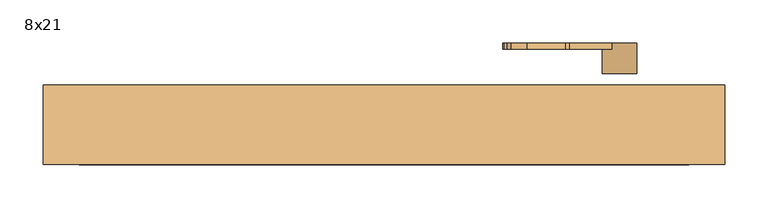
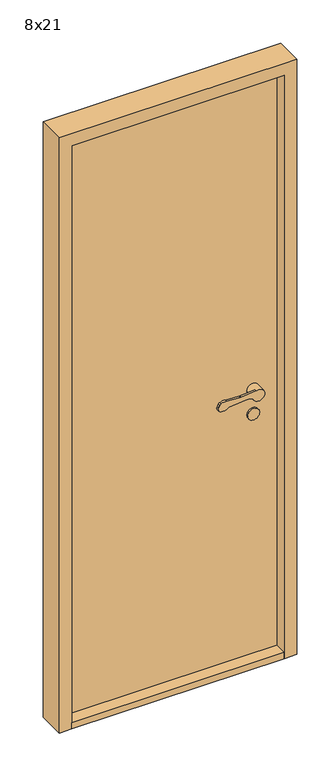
"""IFC4 building model written with IfcOpenShell, lengths in millimetres: door geometry, Innerdør Slett (Diplomat) : 8x21."""

import ifcopenshell
import ifcopenshell.guid

model = None  # the IFC model being written
_history = None  # IfcOwnerHistory: only IFC2X3 demands one
_inside = {}  # id of a spatial element -> (the spatial element, [elements in it])
_under = {}  # id of a project, library or spatial element -> (it, [spatial elements below it])
_declared = {}  # id of a project -> (the project, [libraries it declares])
_typed = {}  # id of a type object -> (the type object, [elements of that type])
_made_of = {}  # id of a material, layer set ... -> (it, [elements and type objects made of it])


def new_model(schema):
    """Start an empty IFC model of exactly this schema.

    Asked for "IFC4X3", IfcOpenShell would pick the latest addendum, in which some entities
    have other attributes; the version numbers below select the first issue.
    IFC2X3 requires an IfcOwnerHistory on every rooted entity: one is made here for all.
    """
    global model, _history
    if schema == "IFC4X3":
        model = ifcopenshell.file(schema_version=(4, 3, 0, 0))
    else:
        model = ifcopenshell.file(schema=schema)
    _inside.clear()
    _under.clear()
    _declared.clear()
    _typed.clear()
    _made_of.clear()
    _history = None
    if model.schema == "IFC2X3":
        org = make("IfcOrganization", Name="unknown")
        user = make(
            "IfcPersonAndOrganization",
            ThePerson=make("IfcPerson", FamilyName="unknown"),
            TheOrganization=org,
        )
        app = make(
            "IfcApplication",
            ApplicationDeveloper=org,
            Version="unknown",
            ApplicationFullName="unknown",
            ApplicationIdentifier="unknown",
        )
        _history = make(
            "IfcOwnerHistory",
            OwningUser=user,
            OwningApplication=app,
            ChangeAction="ADDED",
            CreationDate=0,
        )
    return model


def make(cls, **values):
    """One entity of the class cls with the attributes given. An attribute that is None is left unset."""
    return model.create_entity(
        cls, **{name: value for name, value in values.items() if value is not None}
    )


def rooted(cls, **values):
    """An entity with a GlobalId (a new one), such as an element, a storey or a relation."""
    return make(cls, GlobalId=ifcopenshell.guid.new(), OwnerHistory=_history, **values)


def si_unit(unit_type, name, prefix=None):
    """IfcSIUnit, for example si_unit("LENGTHUNIT", "METRE", prefix="MILLI")."""
    return make("IfcSIUnit", UnitType=unit_type, Prefix=prefix, Name=name)


def assignment(units):
    """IfcUnitAssignment: the units of a project."""
    return None if units is None else make("IfcUnitAssignment", Units=units)


def point(xyz):
    """IfcCartesianPoint."""
    return None if xyz is None else make("IfcCartesianPoint", Coordinates=xyz)


def direction(xyz):
    """IfcDirection."""
    return None if xyz is None else make("IfcDirection", DirectionRatios=xyz)


def frame(location, z_axis=None, x_axis=None):
    """IfcAxis2Placement3D, a coordinate frame: its origin and axes. An axis left out is left unset."""
    return make(
        "IfcAxis2Placement3D",
        Location=point(location),
        Axis=direction(z_axis),
        RefDirection=direction(x_axis),
    )


def frame_2d(location, x_axis=None):
    """IfcAxis2Placement2D, a coordinate frame in the plane: its origin and x axis."""
    return make(
        "IfcAxis2Placement2D", Location=point(location), RefDirection=direction(x_axis)
    )


def origin():
    """The frame at (0, 0, 0) with its axes left unset."""
    return frame((0.0, 0.0, 0.0))


def origin_with_axes():
    """The frame at (0, 0, 0) with the z axis (0, 0, 1) and the x axis (1, 0, 0) written out."""
    return frame((0.0, 0.0, 0.0), z_axis=(0.0, 0.0, 1.0), x_axis=(1.0, 0.0, 0.0))


def place(relative_to, where):
    """IfcLocalPlacement: puts the frame where relative to a parent placement (None: the world)."""
    return make(
        "IfcLocalPlacement", PlacementRelTo=relative_to, RelativePlacement=where
    )


def context(
    kind, dimensions, precision=None, world=None, true_north=None, identifier=None
):
    """IfcGeometricRepresentationContext, for example the 3D "Model" context."""
    return make(
        "IfcGeometricRepresentationContext",
        ContextIdentifier=identifier,
        ContextType=kind,
        CoordinateSpaceDimension=dimensions,
        Precision=precision,
        WorldCoordinateSystem=world,
        TrueNorth=true_north,
    )


def project(units=None, contexts=None):
    """IfcProject with its units and contexts."""
    return rooted(
        "IfcProject",
        Name="project",
        RepresentationContexts=contexts,
        UnitsInContext=assignment(units),
    )


def spatial(cls, under=None, at=None, **own):
    """A site, building, storey or space (cls), placed at a placement, below another one or the project."""
    s = rooted(cls, ObjectPlacement=at, **own)
    if under is not None:
        _under.setdefault(under.id(), (under, []))[1].append(s)
    return s


def polyline(points):
    """IfcPolyline through the points."""
    return make("IfcPolyline", Points=[point(p) for p in points])


def circle_curve(where, radius):
    """IfcCircle in the frame where."""
    return make("IfcCircle", Position=where, Radius=radius)


def trimmed(basis, trim1, trim2, sense, master):
    """IfcTrimmedCurve: the piece of a basis curve between two trims."""
    return make(
        "IfcTrimmedCurve",
        BasisCurve=basis,
        Trim1=trim1,
        Trim2=trim2,
        SenseAgreement=sense,
        MasterRepresentation=master,
    )


def segment(curve, same_sense, transition):
    """IfcCompositeCurveSegment."""
    return make(
        "IfcCompositeCurveSegment",
        Transition=transition,
        SameSense=same_sense,
        ParentCurve=curve,
    )


def composite_curve(segments, self_intersect=None):
    """IfcCompositeCurve: segments joined end to end."""
    return make("IfcCompositeCurve", Segments=segments, SelfIntersect=self_intersect)


def outline(outer, holes=None, kind="AREA"):
    """IfcArbitraryClosedProfileDef: a profile drawn as a closed curve; with holes, ...WithVoids."""
    if holes is None:
        return make("IfcArbitraryClosedProfileDef", ProfileType=kind, OuterCurve=outer)
    return make(
        "IfcArbitraryProfileDefWithVoids",
        ProfileType=kind,
        OuterCurve=outer,
        InnerCurves=holes,
    )


def extrude(swept, where, along, depth):
    """IfcExtrudedAreaSolid: the profile swept, set in the frame where, extruded along a direction by depth."""
    return make(
        "IfcExtrudedAreaSolid",
        SweptArea=swept,
        Position=where,
        ExtrudedDirection=direction(along),
        Depth=depth,
    )


def shape(context_of_items, identifier, shape_type, items):
    """IfcShapeRepresentation: the items that make up one representation, for example the "Body"."""
    return make(
        "IfcShapeRepresentation",
        ContextOfItems=context_of_items,
        RepresentationIdentifier=identifier,
        RepresentationType=shape_type,
        Items=items,
    )


def source(mapping_origin, context_of_items, identifier, shape_type, items):
    """IfcRepresentationMap: a shape defined once, which mapped items show again and again."""
    return make(
        "IfcRepresentationMap",
        MappingOrigin=mapping_origin,
        MappedRepresentation=shape(context_of_items, identifier, shape_type, items),
    )


def transform(
    local_origin,
    x_axis=None,
    y_axis=None,
    z_axis=None,
    scale=None,
    scale2=None,
    scale3=None,
    uniform=True,
):
    """IfcCartesianTransformationOperator3D, or its non-uniform kind. x_axis, y_axis, z_axis: its Axis1, 2, 3."""
    if uniform:
        return make(
            "IfcCartesianTransformationOperator3D",
            Axis1=direction(x_axis),
            Axis2=direction(y_axis),
            LocalOrigin=point(local_origin),
            Scale=scale,
            Axis3=direction(z_axis),
        )
    return make(
        "IfcCartesianTransformationOperator3DnonUniform",
        Axis1=direction(x_axis),
        Axis2=direction(y_axis),
        LocalOrigin=point(local_origin),
        Scale=scale,
        Axis3=direction(z_axis),
        Scale2=scale2,
        Scale3=scale3,
    )


def mapped(mapping_source, mapping_target):
    """IfcMappedItem: shows the shape of a source again, moved by a transform."""
    return make(
        "IfcMappedItem", MappingSource=mapping_source, MappingTarget=mapping_target
    )


def made_of(thing, what):
    """Note that an element or type object is made of a material, layer set ...; save() writes the relation."""
    if what is not None:
        _made_of.setdefault(what.id(), (what, []))[1].append(thing)
    return thing


def element(
    cls,
    number,
    at=None,
    inside=None,
    cuts=None,
    type_object=None,
    material=None,
    context=None,
    identifier="Body",
    shape_type=None,
    held_by="IfcProductDefinitionShape",
    body=None,
    shapes=None,
    **own,
):
    """One element of the class cls, such as IfcWall. Its Tag is "e" and its number.

    at: its placement. inside: the storey or other place that contains it. cuts: it is an
    opening in that element (IfcRelVoidsElement). A single representation is given by context,
    identifier, shape_type and body (its items); several are given by shapes. held_by: the class
    of the entity that holds the representations. save() writes the other relations.
    """
    e = rooted(cls, Tag="e%d" % number, ObjectPlacement=at, **own)
    if body is not None:
        shapes = [shape(context, identifier, shape_type, body)]
    if shapes is not None:
        e.Representation = make(held_by, Representations=shapes)
    if inside is not None:
        _inside.setdefault(inside.id(), (inside, []))[1].append(e)
    if cuts is not None:
        rooted(
            "IfcRelVoidsElement", RelatingBuildingElement=cuts, RelatedOpeningElement=e
        )
    if type_object is not None:
        _typed.setdefault(type_object.id(), (type_object, []))[1].append(e)
    return made_of(e, material)


def aggregate(whole, parts):
    """IfcRelAggregates: a whole, such as a stair, and the parts it consists of."""
    return rooted("IfcRelAggregates", RelatingObject=whole, RelatedObjects=parts)


def save(model, path):
    """Write the relations noted so far, then the file.

    IfcRelAggregates (storeys below a building ...), IfcRelContainedInSpatialStructure (elements
    in a storey), IfcRelDefinesByType, IfcRelAssociatesMaterial and IfcRelDeclares: one each for
    every whole, place, type object, material and project.
    """
    for whole, parts in _under.values():
        aggregate(whole, parts)
    for where, things in _inside.values():
        rooted(
            "IfcRelContainedInSpatialStructure",
            RelatedElements=things,
            RelatingStructure=where,
        )
    for kind, things in _typed.values():
        rooted("IfcRelDefinesByType", RelatedObjects=things, RelatingType=kind)
    for what, things in _made_of.values():
        rooted("IfcRelAssociatesMaterial", RelatedObjects=things, RelatingMaterial=what)
    for by, libraries in _declared.values():
        rooted("IfcRelDeclares", RelatingContext=by, RelatedDefinitions=libraries)
    model.write(path)


def plane_surface(at):
    """IfcPlane: the flat surface through the origin of the frame at, square to its z axis."""
    return make("IfcPlane", Position=at)


def cylinder_surface(at, radius):
    """IfcCylindricalSurface: all points at the distance radius from the z axis of the frame at."""
    return make("IfcCylindricalSurface", Position=at, Radius=radius)


def revolved_surface(curve, axis_point, axis_direction):
    """IfcSurfaceOfRevolution: the curve turned about the line through axis_point along axis_direction."""
    return make(
        "IfcSurfaceOfRevolution",
        SweptCurve=make("IfcArbitraryOpenProfileDef", ProfileType="CURVE", Curve=curve),
        AxisPosition=make("IfcAxis1Placement", Location=point(axis_point), Axis=direction(axis_direction)),
    )


def advanced_brep(points, edges, surfaces, faces):
    """IfcAdvancedBrep: a solid bounded by faces that lie on surfaces and meet in shared edges.

    An edge is (start, end): straight between two places in points (the first is 0);
    or (start, end, curve); or (start, end, curve, False) where it runs against its curve.
    A face is (place in surfaces, loops), or (place, loops, False) where it looks against
    its surface's normal. A loop lists edges by number (the first is 1), with a minus sign
    where the edge is run from its end to its start. The first loop is the outer one.
    """
    corners = [point(p) for p in points]
    vertices = [make("IfcVertexPoint", VertexGeometry=c) for c in corners]
    made = []
    for start, end, *more in edges:
        made.append(
            make(
                "IfcEdgeCurve",
                EdgeStart=vertices[start],
                EdgeEnd=vertices[end],
                EdgeGeometry=more[0] if more else make("IfcPolyline", Points=[corners[start], corners[end]]),
                SameSense=more[1] if len(more) > 1 else True,
            )
        )
    hull = []
    for where, loops, *sense in faces:
        bounds = []
        for j, loop in enumerate(loops):
            ring = [make("IfcOrientedEdge", EdgeElement=made[abs(k) - 1], Orientation=k > 0) for k in loop]
            bounds.append(
                make(
                    "IfcFaceOuterBound" if j == 0 else "IfcFaceBound",
                    Bound=make("IfcEdgeLoop", EdgeList=ring),
                    Orientation=True,
                )
            )
        hull.append(make("IfcAdvancedFace", Bounds=bounds, FaceSurface=surfaces[where], SameSense=sense[0] if sense else True))
    return make("IfcAdvancedBrep", Outer=make("IfcClosedShell", CfsFaces=hull))


def door_8x21_53164427(model_context):
    return source(origin(), model_context, "Body", "SolidModel", [
        advanced_brep(
        [(293.9611305, -34.0, 949.1175955), (308.3841161, -34.0, 942.6204086), (346.379633, -34.0, 951.3474568), (317.2687793, -34.0, 969.1517356), (268.6891233, -34.0, 964.26032), (263.6202158, -34.0, 964.1804415), (218.8963175, -34.0, 967.2639242), (200.3175669, -34.0, 964.8810513), (195.505009, -34.0, 959.9624074), (191.8691983, -34.0, 951.8913379), (196.721536, -34.0, 938.7393398), (226.0476109, -34.0, 943.6260011), (288.8520664, -34.0, 949.9496913), (268.6891233, -26.8915284, 964.26032), (317.2687793, -26.8915284, 969.1517356), (306.379633, -26.8915284, 951.3474568), (308.3841161, -26.8915284, 942.6204086), (293.9611305, -26.8915284, 949.1175955), (288.8520664, -26.8915284, 949.9496913), (226.0476109, -26.8915284, 943.6260011), (196.721536, -26.8915284, 938.7393398), (191.8691983, -26.8915284, 951.8913379), (195.505009, -26.8915284, 959.9624074), (200.3175669, -26.8915284, 964.8810513), (218.8963175, -26.8915284, 967.2639242), (263.6202158, -26.8915284, 964.1804415), (346.379633, 1.0, 951.3474568), (306.379633, 1.0, 951.3474568)],
        [
            (0, 1),
            (1, 2, circle_curve(frame((326.379633, -34.0, 951.3474568), z_axis=(0.0, -1.0, 0.0), x_axis=(-1.0, 0.0, 0.0)), 20.0)),
            (2, 3, circle_curve(frame((326.379633, -34.0, 951.3474568), z_axis=(0.0, -1.0, 0.0), x_axis=(-1.0, 0.0, 0.0)), 20.0)),
            (3, 4),
            (4, 5, circle_curve(frame((265.683663, -34.0, 994.1093938), z_axis=(0.0, 1.0, 0.0), x_axis=(-0.9949691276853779, 0.0, -0.10018200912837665)), 30.0)),
            (5, 6),
            (6, 7, circle_curve(frame((213.2326797, -34.0, 937.8033877), z_axis=(0.0, -1.0, 0.0), x_axis=(-0.9949691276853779, 0.0, -0.10018200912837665)), 30.0)),
            (7, 8, circle_curve(frame((204.6226045, -34.0, 955.8551634), z_axis=(0.0, -1.0, 0.0), x_axis=(-0.9949691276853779, 0.0, -0.10018200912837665)), 10.0)),
            (8, 9),
            (9, 10, circle_curve(frame((200.9867937, -34.0, 947.7840939), z_axis=(0.0, -1.0, 0.0), x_axis=(-0.9949691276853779, 0.0, -0.10018200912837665)), 10.0)),
            (10, 11, circle_curve(frame((207.8569644, -34.0, 962.352734), z_axis=(0.0, -1.0, 0.0), x_axis=(-0.9949691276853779, 0.0, -0.10018200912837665)), 26.1072815)),
            (11, 12),
            (12, 0, circle_curve(frame((289.8538865, -34.0, 940.0), z_axis=(0.0, 1.0, 0.0), x_axis=(-0.9949691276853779, 0.0, -0.10018200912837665)), 10.0)),
            (13, 14),
            (14, 15, circle_curve(frame((326.379633, -26.8915284, 951.3474568), z_axis=(0.0, -1.0, 0.0), x_axis=(-1.0, 0.0, 0.0)), 20.0)),
            (15, 16, circle_curve(frame((326.379633, -26.8915284, 951.3474568), z_axis=(0.0, -1.0, 0.0), x_axis=(-1.0, 0.0, 0.0)), 20.0)),
            (16, 17),
            (17, 18, circle_curve(frame((289.8538865, -26.8915284, 940.0), z_axis=(0.0, -1.0, 0.0), x_axis=(-0.9949691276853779, 0.0, -0.10018200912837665)), 10.0)),
            (18, 19),
            (19, 20, circle_curve(frame((207.8569644, -26.8915284, 962.352734), z_axis=(0.0, 1.0, 0.0), x_axis=(-0.9949691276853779, 0.0, -0.10018200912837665)), 26.1072815)),
            (20, 21, circle_curve(frame((200.9867937, -26.8915284, 947.7840939), z_axis=(0.0, 1.0, 0.0), x_axis=(-0.9949691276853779, 0.0, -0.10018200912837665)), 10.0)),
            (21, 22),
            (22, 23, circle_curve(frame((204.6226045, -26.8915284, 955.8551634), z_axis=(0.0, 1.0, 0.0), x_axis=(-0.9949691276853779, 0.0, -0.10018200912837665)), 10.0)),
            (23, 24, circle_curve(frame((213.2326797, -26.8915284, 937.8033877), z_axis=(0.0, 1.0, 0.0), x_axis=(-0.9949691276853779, 0.0, -0.10018200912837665)), 30.0)),
            (24, 25),
            (25, 13, circle_curve(frame((265.683663, -26.8915284, 994.1093938), z_axis=(0.0, -1.0, 0.0), x_axis=(-0.9949691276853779, 0.0, -0.10018200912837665)), 30.0)),
            (3, 14),
            (13, 4),
            (16, 1),
            (0, 17),
            (12, 18),
            (11, 19),
            (10, 20),
            (9, 21),
            (8, 22),
            (7, 23),
            (6, 24),
            (5, 25),
            (26, 27, circle_curve(frame((326.379633, 1.0, 951.3474568), z_axis=(0.0, 1.0, 0.0), x_axis=(-1.0, 0.0, 0.0)), 20.0)),
            (27, 26, circle_curve(frame((326.379633, 1.0, 951.3474568), z_axis=(0.0, 1.0, 0.0), x_axis=(-1.0, 0.0, 0.0)), 20.0)),
            (26, 2),
            (15, 27),
        ],
        [
            plane_surface(frame((317.6960588, -34.0, 969.1947577), z_axis=(0.0, -1.0000000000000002, 0.0), x_axis=(0.9949691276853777, 0.0, 0.10018200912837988))),
            plane_surface(frame((317.6960588, -26.8915284, 969.1947577), z_axis=(0.0, 1.0000000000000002, 0.0), x_axis=(-0.9949691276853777, 0.0, -0.10018200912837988))),
            plane_surface(frame((268.6891233, -34.0, 964.26032), z_axis=(-0.10018200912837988, 0.0, 0.9949691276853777), x_axis=(0.0, 1.0, 0.0))),
            plane_surface(frame((326.9687366, -34.0, 934.2485115), z_axis=(-0.41072439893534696, 0.0, -0.91175954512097), x_axis=(0.0, 1.0, 0.0))),
            revolved_surface(polyline([(279.9041952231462, -26.8915284, 938.9981799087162), (279.9041952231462, -34.0, 938.9981799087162)]), (289.8538865, -26.8915284, 940.0), (0.0, 1.0, 0.0)),
            plane_surface(frame((288.8520664, -34.0, 949.9496913), z_axis=(0.10018200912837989, 0.0, -0.9949691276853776), x_axis=(0.0, 1.0, 0.0))),
            cylinder_surface(frame((207.8569644, -26.8915284, 962.352734), z_axis=(0.0, -1.0, 0.0), x_axis=(-0.9949691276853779, 0.0, -0.10018200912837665)), 26.1072815),
            cylinder_surface(frame((200.9867937, -26.8915284, 947.7840939), z_axis=(0.0, -1.0, 0.0), x_axis=(-0.9949691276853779, 0.0, -0.10018200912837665)), 10.0),
            plane_surface(frame((191.8691983, -34.0, 951.8913379), z_axis=(-0.9117595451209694, 0.0, 0.41072439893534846), x_axis=(0.0, 1.0, 0.0))),
            cylinder_surface(frame((204.6226045, -26.8915284, 955.8551634), z_axis=(0.0, -1.0, 0.0), x_axis=(-0.9949691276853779, 0.0, -0.10018200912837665)), 10.0),
            cylinder_surface(frame((213.2326797, -26.8915284, 937.8033877), z_axis=(0.0, -1.0, 0.0), x_axis=(-0.9949691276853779, 0.0, -0.10018200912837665)), 30.0),
            plane_surface(frame((218.8963175, -34.0, 967.2639242), z_axis=(0.06878157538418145, 0.0, 0.9976317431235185), x_axis=(0.0, 1.0, 0.0))),
            revolved_surface(polyline([(235.8345891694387, -26.8915284, 991.1039335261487), (235.8345891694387, -34.0, 991.1039335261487)]), (265.683663, -26.8915284, 994.1093938), (0.0, 1.0, 0.0)),
            plane_surface(frame((306.379633, 1.0, 951.3474568), z_axis=(0.0, 1.0, 0.0), x_axis=(0.0, 0.0, -1.0))),
            cylinder_surface(frame((326.379633, 1.0, 951.3474568), z_axis=(0.0, -1.0, 0.0), x_axis=(-1.0, 0.0, 0.0)), 20.0),
        ],
        [
            (0, [[1, 2, 3, 4, 5, 6, 7, 8, 9, 10, 11, 12, 13]]),
            (1, [[14, 15, 16, 17, 18, 19, 20, 21, 22, 23, 24, 25, 26]]),
            (2, [[-4, 27, -14, 28]]),
            (3, [[-17, 29, -1, 30]]),
            (4, [[31, -18, -30, -13]]),
            (5, [[32, -19, -31, -12]]),
            (6, [[33, -20, -32, -11]]),
            (7, [[34, -21, -33, -10]]),
            (8, [[35, -22, -34, -9]]),
            (9, [[36, -23, -35, -8]]),
            (10, [[37, -24, -36, -7]]),
            (11, [[38, -25, -37, -6]]),
            (12, [[-28, -26, -38, -5]]),
            (13, [[39, 40]]),
            (14, [[41, -2, -29, -16, 42, -39]]),
            (14, [[-42, -15, -27, -3, -41, -40]]),
        ],
    ),
        extrude(outline(composite_curve([segment(trimmed(circle_curve(frame_2d((866.3474568, 326.379633)), 20.0), [point((866.3474568, 346.379633))], [point((866.3474568, 306.379633))], False, "CARTESIAN"), True, "CONTINUOUS"), segment(trimmed(circle_curve(frame_2d((866.3474568, 326.379633)), 20.0), [point((866.3474568, 306.379633))], [point((866.3474568, 346.379633))], False, "CARTESIAN"), True, "CONTINUOUS")], self_intersect=False)), frame((0.0, -4.0, 0.0), z_axis=(0.0, 1.0, 0.0), x_axis=(0.0, 0.0, 1.0)), (0.0, 0.0, 1.0), 5.0),
        advanced_brep(
        [(293.9611305, 100.0, 949.1175955), (288.8520664, 100.0, 949.9496913), (226.0476109, 100.0, 943.6260011), (196.721536, 100.0, 938.7393398), (191.8691983, 100.0, 951.8913379), (195.505009, 100.0, 959.9624074), (200.3175669, 100.0, 964.8810513), (218.8963175, 100.0, 967.2639242), (263.6202158, 100.0, 964.1804415), (268.6891233, 100.0, 964.26032), (317.2687793, 100.0, 969.1517356), (346.379633, 100.0, 951.3474568), (308.3841161, 100.0, 942.6204086), (268.6891233, 92.8915284, 964.26032), (263.6202158, 92.8915284, 964.1804415), (218.8963175, 92.8915284, 967.2639242), (200.3175669, 92.8915284, 964.8810513), (195.505009, 92.8915284, 959.9624074), (191.8691983, 92.8915284, 951.8913379), (196.721536, 92.8915284, 938.7393398), (226.0476109, 92.8915284, 943.6260011), (288.8520664, 92.8915284, 949.9496913), (293.9611305, 92.8915284, 949.1175955), (308.3841161, 92.8915284, 942.6204086), (306.379633, 92.8915284, 951.3474568), (317.2687793, 92.8915284, 969.1517356), (346.379633, 65.0, 951.3474568), (306.379633, 65.0, 951.3474568)],
        [
            (0, 1, circle_curve(frame((289.8538865, 100.0, 940.0), z_axis=(0.0, -1.0, 0.0), x_axis=(-0.9949691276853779, 0.0, -0.10018200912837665)), 10.0)),
            (1, 2),
            (2, 3, circle_curve(frame((207.8569644, 100.0, 962.352734), z_axis=(0.0, 1.0, 0.0), x_axis=(-0.9949691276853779, 0.0, -0.10018200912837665)), 26.1072815)),
            (3, 4, circle_curve(frame((200.9867937, 100.0, 947.7840939), z_axis=(0.0, 1.0, 0.0), x_axis=(-0.9949691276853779, 0.0, -0.10018200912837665)), 10.0)),
            (4, 5),
            (5, 6, circle_curve(frame((204.6226045, 100.0, 955.8551634), z_axis=(0.0, 1.0, 0.0), x_axis=(-0.9949691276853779, 0.0, -0.10018200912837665)), 10.0)),
            (6, 7, circle_curve(frame((213.2326797, 100.0, 937.8033877), z_axis=(0.0, 1.0, 0.0), x_axis=(-0.9949691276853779, 0.0, -0.10018200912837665)), 30.0)),
            (7, 8),
            (8, 9, circle_curve(frame((265.683663, 100.0, 994.1093938), z_axis=(0.0, -1.0, 0.0), x_axis=(-0.9949691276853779, 0.0, -0.10018200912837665)), 30.0)),
            (9, 10),
            (10, 11, circle_curve(frame((326.379633, 100.0, 951.3474568), z_axis=(0.0, 1.0, 0.0), x_axis=(-1.0, 0.0, 0.0)), 20.0)),
            (11, 12, circle_curve(frame((326.379633, 100.0, 951.3474568), z_axis=(0.0, 1.0, 0.0), x_axis=(-1.0, 0.0, 0.0)), 20.0)),
            (12, 0),
            (13, 14, circle_curve(frame((265.683663, 92.8915284, 994.1093938), z_axis=(0.0, 1.0, 0.0), x_axis=(-0.9949691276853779, 0.0, -0.10018200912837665)), 30.0)),
            (14, 15),
            (15, 16, circle_curve(frame((213.2326797, 92.8915284, 937.8033877), z_axis=(0.0, -1.0, 0.0), x_axis=(-0.9949691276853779, 0.0, -0.10018200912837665)), 30.0)),
            (16, 17, circle_curve(frame((204.6226045, 92.8915284, 955.8551634), z_axis=(0.0, -1.0, 0.0), x_axis=(-0.9949691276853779, 0.0, -0.10018200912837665)), 10.0)),
            (17, 18),
            (18, 19, circle_curve(frame((200.9867937, 92.8915284, 947.7840939), z_axis=(0.0, -1.0, 0.0), x_axis=(-0.9949691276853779, 0.0, -0.10018200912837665)), 10.0)),
            (19, 20, circle_curve(frame((207.8569644, 92.8915284, 962.352734), z_axis=(0.0, -1.0, 0.0), x_axis=(-0.9949691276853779, 0.0, -0.10018200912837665)), 26.1072815)),
            (20, 21),
            (21, 22, circle_curve(frame((289.8538865, 92.8915284, 940.0), z_axis=(0.0, 1.0, 0.0), x_axis=(-0.9949691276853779, 0.0, -0.10018200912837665)), 10.0)),
            (22, 23),
            (23, 24, circle_curve(frame((326.379633, 92.8915284, 951.3474568), z_axis=(0.0, 1.0, 0.0), x_axis=(-1.0, 0.0, 0.0)), 20.0)),
            (24, 25, circle_curve(frame((326.379633, 92.8915284, 951.3474568), z_axis=(0.0, 1.0, 0.0), x_axis=(-1.0, 0.0, 0.0)), 20.0)),
            (25, 13),
            (9, 13),
            (25, 10),
            (22, 0),
            (12, 23),
            (21, 1),
            (20, 2),
            (19, 3),
            (18, 4),
            (17, 5),
            (16, 6),
            (15, 7),
            (14, 8),
            (26, 27, circle_curve(frame((326.379633, 65.0, 951.3474568), z_axis=(0.0, -1.0, 0.0), x_axis=(-1.0, 0.0, 0.0)), 20.0)),
            (27, 26, circle_curve(frame((326.379633, 65.0, 951.3474568), z_axis=(0.0, -1.0, 0.0), x_axis=(-1.0, 0.0, 0.0)), 20.0)),
            (27, 24),
            (11, 26),
        ],
        [
            plane_surface(frame((317.6960588, 100.0, 969.1947577), z_axis=(0.0, 1.0000000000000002, 0.0), x_axis=(0.9949691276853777, 0.0, 0.10018200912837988))),
            plane_surface(frame((317.6960588, 92.8915284, 969.1947577), z_axis=(0.0, -1.0000000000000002, 0.0), x_axis=(-0.9949691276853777, 0.0, -0.10018200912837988))),
            plane_surface(frame((268.6891233, 100.0, 964.26032), z_axis=(-0.10018200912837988, 0.0, 0.9949691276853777), x_axis=(0.0, -1.0, 0.0))),
            plane_surface(frame((326.9687366, 100.0, 934.2485115), z_axis=(-0.41072439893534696, 0.0, -0.91175954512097), x_axis=(0.0, -1.0, 0.0))),
            revolved_surface(polyline([(279.9041952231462, 92.8915284, 938.9981799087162), (279.9041952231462, 100.0, 938.9981799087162)]), (289.8538865, 92.8915284, 940.0), (0.0, -1.0, 0.0)),
            plane_surface(frame((288.8520664, 100.0, 949.9496913), z_axis=(0.10018200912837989, 0.0, -0.9949691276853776), x_axis=(0.0, -1.0, 0.0))),
            cylinder_surface(frame((207.8569644, 92.8915284, 962.352734), z_axis=(0.0, 1.0, 0.0), x_axis=(-0.9949691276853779, 0.0, -0.10018200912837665)), 26.1072815),
            cylinder_surface(frame((200.9867937, 92.8915284, 947.7840939), z_axis=(0.0, 1.0, 0.0), x_axis=(-0.9949691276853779, 0.0, -0.10018200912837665)), 10.0),
            plane_surface(frame((191.8691983, 100.0, 951.8913379), z_axis=(-0.9117595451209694, 0.0, 0.41072439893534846), x_axis=(0.0, -1.0, 0.0))),
            cylinder_surface(frame((204.6226045, 92.8915284, 955.8551634), z_axis=(0.0, 1.0, 0.0), x_axis=(-0.9949691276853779, 0.0, -0.10018200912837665)), 10.0),
            cylinder_surface(frame((213.2326797, 92.8915284, 937.8033877), z_axis=(0.0, 1.0, 0.0), x_axis=(-0.9949691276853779, 0.0, -0.10018200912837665)), 30.0),
            plane_surface(frame((218.8963175, 100.0, 967.2639242), z_axis=(0.06878157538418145, 0.0, 0.9976317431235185), x_axis=(0.0, -1.0, 0.0))),
            revolved_surface(polyline([(235.8345891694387, 92.8915284, 991.1039335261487), (235.8345891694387, 100.0, 991.1039335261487)]), (265.683663, 92.8915284, 994.1093938), (0.0, -1.0, 0.0)),
            plane_surface(frame((306.379633, 65.0, 951.3474568), z_axis=(0.0, -1.0, 0.0), x_axis=(0.0, 0.0, -1.0))),
            cylinder_surface(frame((326.379633, 65.0, 951.3474568), z_axis=(0.0, 1.0, 0.0), x_axis=(-1.0, 0.0, 0.0)), 20.0),
        ],
        [
            (0, [[1, 2, 3, 4, 5, 6, 7, 8, 9, 10, 11, 12, 13]]),
            (1, [[14, 15, 16, 17, 18, 19, 20, 21, 22, 23, 24, 25, 26]]),
            (2, [[27, -26, 28, -10]]),
            (3, [[29, -13, 30, -23]]),
            (4, [[-1, -29, -22, 31]]),
            (5, [[-2, -31, -21, 32]]),
            (6, [[-3, -32, -20, 33]]),
            (7, [[-4, -33, -19, 34]]),
            (8, [[-5, -34, -18, 35]]),
            (9, [[-6, -35, -17, 36]]),
            (10, [[-7, -36, -16, 37]]),
            (11, [[-8, -37, -15, 38]]),
            (12, [[-9, -38, -14, -27]]),
            (13, [[39, 40]]),
            (14, [[-40, 41, -24, -30, -12, 42]]),
            (14, [[-39, -42, -11, -28, -25, -41]]),
        ],
    ),
        extrude(outline(composite_curve([segment(trimmed(circle_curve(frame_2d((866.3474568, 326.379633)), 20.0), [point((866.3474568, 346.379633))], [point((866.3474568, 306.379633))], False, "CARTESIAN"), True, "CONTINUOUS"), segment(trimmed(circle_curve(frame_2d((866.3474568, 326.379633)), 20.0), [point((866.3474568, 306.379633))], [point((866.3474568, 346.379633))], False, "CARTESIAN"), True, "CONTINUOUS")], self_intersect=False)), frame((0.0, 65.0, 0.0), z_axis=(0.0, 1.0, 0.0), x_axis=(0.0, 0.0, 1.0)), (0.0, 0.0, 1.0), 5.0),
        extrude(outline(polyline([(406.379633, -41.0), (-299.620367, -41.0), (-299.620367, 51.0), (406.379633, 51.0), (406.379633, -41.0)])), origin_with_axes(), (0.0, 0.0, 1.0), 22.0),
        extrude(outline(polyline([(406.379633, 1.0), (-299.620367, 1.0), (-299.620367, 51.0), (406.379633, 51.0), (406.379633, 1.0)])), frame((0.0, 0.0, 22.0), z_axis=(0.0, 0.0, 1.0), x_axis=(1.0, 0.0, 0.0)), (0.0, 0.0, 1.0), 2031.0),
        extrude(outline(polyline([(0.0, -341.620367), (0.0, -299.620367), (2053.0, -299.620367), (2053.0, 406.379633), (0.0, 406.379633), (0.0, 448.379633), (2095.0, 448.379633), (2095.0, -341.620367), (0.0, -341.620367)])), frame((0.0, -41.0, 0.0), z_axis=(0.0, 1.0, 0.0), x_axis=(0.0, 0.0, 1.0)), (0.0, 0.0, 1.0), 92.0),
    ])


if __name__ == "__main__":
    model = new_model("IFC4")
    model_context = context("Model", 3, world=origin())
    ifc_project = project(units=[si_unit("LENGTHUNIT", "METRE", prefix="MILLI")], contexts=[model_context])
    site = spatial("IfcSite", under=ifc_project)
    building = spatial("IfcBuilding", under=site)
    placement = place(None, origin())
    door_8x21_shape = door_8x21_53164427(model_context)
    element("IfcDoor", 1, ObjectType="Innerdør Slett (Diplomat) : 8x21", at=placement, inside=building, context=model_context, shape_type="MappedRepresentation", body=[
        mapped(door_8x21_shape, transform((0.0, 0.0, 0.0), x_axis=(1.0, 0.0, 0.0), y_axis=(0.0, 1.0, 0.0), z_axis=(0.0, 0.0, 1.0))),
    ])
    save(model, "model.ifc")
